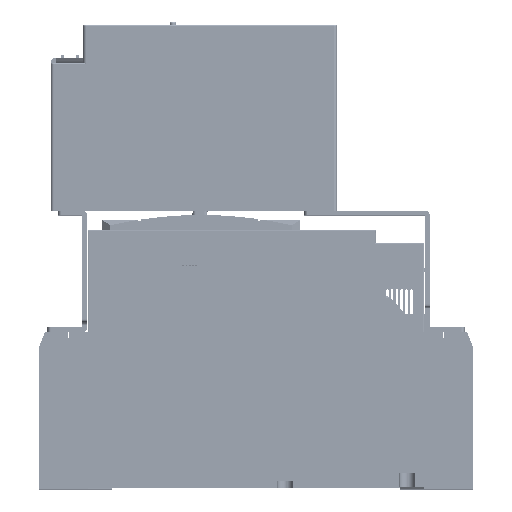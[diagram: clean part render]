
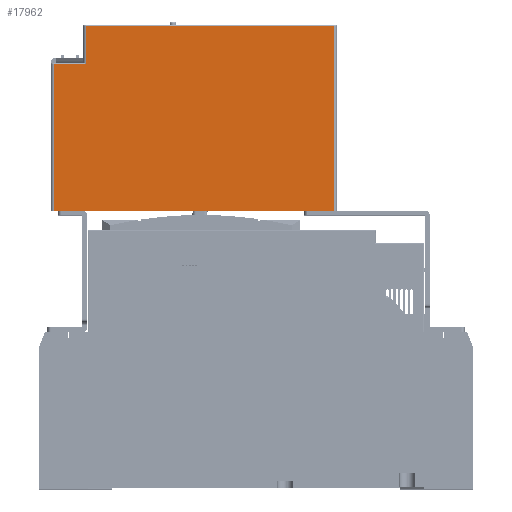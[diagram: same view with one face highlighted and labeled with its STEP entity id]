
A CAD part, top view. The second image highlights one B-rep face of the part: STEP entity #17962.
In plain terms, the highlighted planar face has unit normal (0, 0, 1).
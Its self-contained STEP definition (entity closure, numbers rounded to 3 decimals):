
#6104 = DIRECTION ( 'NONE',  ( 0., -1., 0. ) ) ;
#15311 = ORIENTED_EDGE ( 'NONE', *, *, #148208, .T. ) ;
#17962 = ADVANCED_FACE ( 'NONE', ( #152357 ), #265887, .F. ) ;
#20937 = VECTOR ( 'NONE', #313153, 1000. ) ;
#25106 = CARTESIAN_POINT ( 'NONE',  ( -43.263, 259.687, -88.795 ) ) ;
#29101 = EDGE_CURVE ( 'NONE', #279420, #262683, #286022, .T. ) ;
#29222 = DIRECTION ( 'NONE',  ( -1., 0., 0. ) ) ;
#38432 = VECTOR ( 'NONE', #167182, 1000. ) ;
#41052 = VERTEX_POINT ( 'NONE', #130759 ) ;
#53917 = VERTEX_POINT ( 'NONE', #268220 ) ;
#57513 = DIRECTION ( 'NONE',  ( -1., 0., 0. ) ) ;
#65437 = EDGE_CURVE ( 'NONE', #286571, #41052, #311077, .T. ) ;
#74472 = VERTEX_POINT ( 'NONE', #99082 ) ;
#77493 = DIRECTION ( 'NONE',  ( 0., 0., -1. ) ) ;
#83138 = CARTESIAN_POINT ( 'NONE',  ( 73.737, 169.187, -88.795 ) ) ;
#86476 = CARTESIAN_POINT ( 'NONE',  ( -41.263, 259.687, -88.795 ) ) ;
#93040 = ORIENTED_EDGE ( 'NONE', *, *, #209658, .T. ) ;
#94785 = AXIS2_PLACEMENT_3D ( 'NONE', #224166, #77493, #29222 ) ;
#95063 = CARTESIAN_POINT ( 'NONE',  ( 131.737, 208.107, -88.795 ) ) ;
#99082 = CARTESIAN_POINT ( 'NONE',  ( 131.737, 283.187, -88.795 ) ) ;
#100675 = VECTOR ( 'NONE', #6104, 1000. ) ;
#101505 = EDGE_LOOP ( 'NONE', ( #93040, #263736, #231161, #15311, #221944, #244130 ) ) ;
#114677 = EDGE_CURVE ( 'NONE', #74472, #279420, #210839, .T. ) ;
#121477 = VECTOR ( 'NONE', #314417, 1000. ) ;
#123636 = DIRECTION ( 'NONE',  ( -1., 0., 0. ) ) ;
#124482 = LINE ( 'NONE', #95063, #20937 ) ;
#130759 = CARTESIAN_POINT ( 'NONE',  ( -41.263, 169.187, -88.795 ) ) ;
#148208 = EDGE_CURVE ( 'NONE', #53917, #74472, #124482, .T. ) ;
#152357 = FACE_OUTER_BOUND ( 'NONE', #101505, .T. ) ;
#152731 = CARTESIAN_POINT ( 'NONE',  ( -41.263, 208.107, -88.795 ) ) ;
#167046 = VECTOR ( 'NONE', #57513, 1000. ) ;
#167182 = DIRECTION ( 'NONE',  ( -1., 0., 0. ) ) ;
#169878 = CARTESIAN_POINT ( 'NONE',  ( -21.263, 259.687, -88.795 ) ) ;
#170096 = CARTESIAN_POINT ( 'NONE',  ( -21.263, 208.107, -88.795 ) ) ;
#208704 = CARTESIAN_POINT ( 'NONE',  ( -21.263, 283.187, -88.795 ) ) ;
#209658 = EDGE_CURVE ( 'NONE', #262683, #286571, #222842, .T. ) ;
#210839 = LINE ( 'NONE', #243230, #38432 ) ;
#213535 = LINE ( 'NONE', #83138, #167046 ) ;
#221944 = ORIENTED_EDGE ( 'NONE', *, *, #114677, .T. ) ;
#222842 = LINE ( 'NONE', #25106, #272423 ) ;
#224166 = CARTESIAN_POINT ( 'NONE',  ( 73.737, 208.107, -88.795 ) ) ;
#231161 = ORIENTED_EDGE ( 'NONE', *, *, #302247, .F. ) ;
#243230 = CARTESIAN_POINT ( 'NONE',  ( 73.737, 283.187, -88.795 ) ) ;
#244130 = ORIENTED_EDGE ( 'NONE', *, *, #29101, .T. ) ;
#262683 = VERTEX_POINT ( 'NONE', #169878 ) ;
#263736 = ORIENTED_EDGE ( 'NONE', *, *, #65437, .T. ) ;
#265887 = PLANE ( 'NONE',  #94785 ) ;
#268220 = CARTESIAN_POINT ( 'NONE',  ( 131.737, 169.187, -88.795 ) ) ;
#272423 = VECTOR ( 'NONE', #123636, 1000. ) ;
#279420 = VERTEX_POINT ( 'NONE', #208704 ) ;
#286022 = LINE ( 'NONE', #170096, #121477 ) ;
#286571 = VERTEX_POINT ( 'NONE', #86476 ) ;
#302247 = EDGE_CURVE ( 'NONE', #53917, #41052, #213535, .T. ) ;
#311077 = LINE ( 'NONE', #152731, #100675 ) ;
#313153 = DIRECTION ( 'NONE',  ( 0., 1., 0. ) ) ;
#314417 = DIRECTION ( 'NONE',  ( 0., -1., 0. ) ) ;
